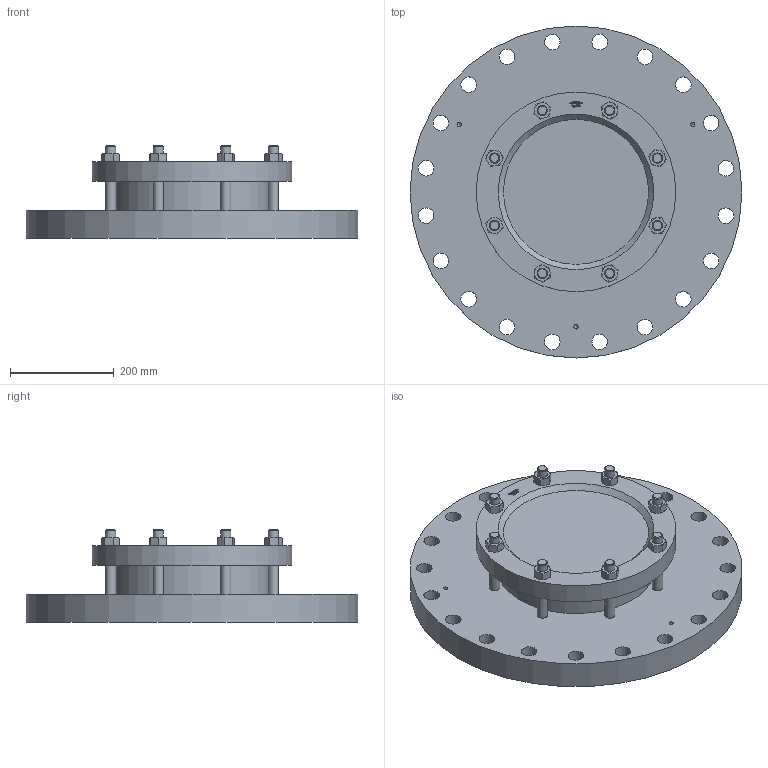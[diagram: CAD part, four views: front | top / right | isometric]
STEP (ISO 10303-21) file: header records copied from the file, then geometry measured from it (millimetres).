
FILE_DESCRIPTION(/* description */ (''),/* implementation_level */ '2;1');
FILE_NAME(/* name */ 'W:\Konstruktion_ACI\325\_STEP\325-450-16.stp',/* time_stamp */ '2022-03-02T17:13:48+01:00',/* author */ ('koslowksi'),/* organization */ (''),/* preprocessor_version */ 'ST-DEVELOPER v16.1',/* originating_system */ 'Autodesk Inventor 2016',/* authorisation */ '');
FILE_SCHEMA (('AUTOMOTIVE_DESIGN { 1 0 10303 214 3 1 1 }'));
Length unit declared in the file: millimetre
Products named in the file (1): 325-450-16
Bounding box: 640 x 640 x 179 mm (x, y, z)
Volume: 24709098.7 mm3; surface area: 1062378.6 mm2
Topology: 1 solids, 1 shells, 457 faces, 1172 edges, 755 vertices
Faces by surface type: plane 199, cone 108, bspline 108, cylinder 42
Full cylindrical faces by diameter (mm): 8.376 x3, 20 x16, 30 x20, 304 x1, 385 x1, 640 x1
Entity records: 14150 total; most frequent: CARTESIAN_POINT 4057, ORIENTED_EDGE 2174, DIRECTION 1569, EDGE_CURVE 1087, VERTEX_POINT 724, EDGE_LOOP 605, AXIS2_PLACEMENT_3D 540, LINE 489
